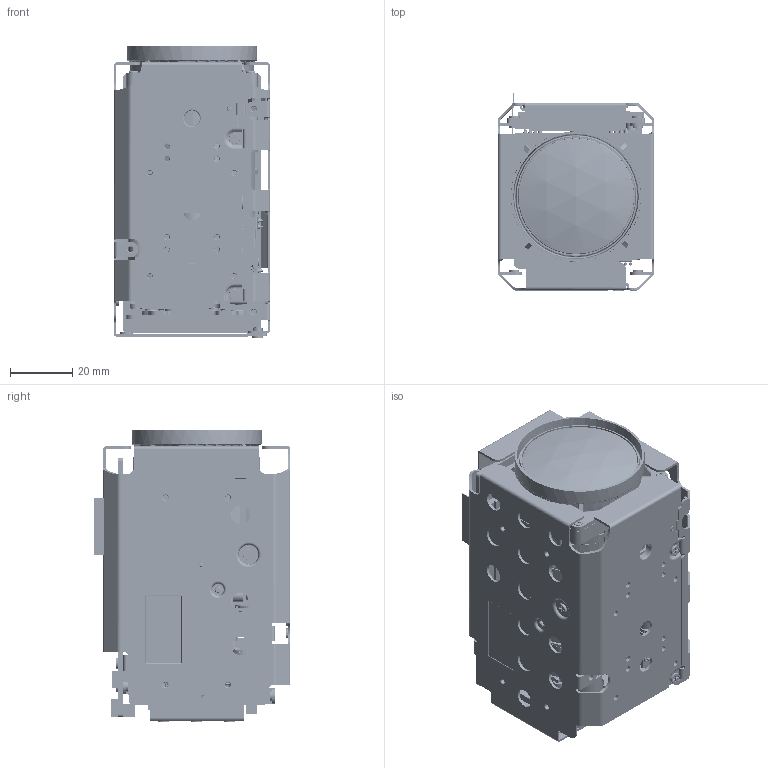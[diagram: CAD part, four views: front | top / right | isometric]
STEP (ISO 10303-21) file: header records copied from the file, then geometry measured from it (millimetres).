
FILE_DESCRIPTION((''),'2;1');
FILE_NAME('000_30LGHD_ASSY_ASM','2024-12-26T',('USER'),(''),'PRO/ENGINEER BY PARAMETRIC TECHNOLOGY CORPORATION, 2012300','PRO/ENGINEER BY PARAMETRIC TECHNOLOGY CORPORATION, 2012300','');
FILE_SCHEMA(('AUTOMOTIVE_DESIGN_CC2 { 1 2 10303 214 -1 1 5 2 }'));
Length unit declared in the file: millimetre
Products named in the file (16): 654423010_LENS_ZOOM_30LGHD; 355037034_PLATE_BKT_CMOS_PCB; 364037012_SHIELD_SENSOR; 30LGHD_IMX900; NEW_PCB_SENSOR_30LGHD_ASM; 837102082_TS_CH_M2X8; 365837028_SPACER_SUPPORT_R; NEW_PCB_MAIN; NEW_PCB_MAIN_30LGHD_ASM; 837002042A_TS_CH_M2X4; 561591084_PAD_TM_12X12X4T; 323037065SA_CHASSIS_BOTTOM; 817002032A_MS_CH_M2X3; 561591115_PAD_TM_24X36X4T; 323037062SA_CHASSIS_TOP; 000_30LGHD_ASSY_ASM
Assembly tree (29 placements, depth 3):
  000_30LGHD_ASSY_ASM
    654423010_LENS_ZOOM_30LGHD
    355037034_PLATE_BKT_CMOS_PCB
    364037012_SHIELD_SENSOR
    NEW_PCB_SENSOR_30LGHD_ASM
      30LGHD_IMX900
    837102082_TS_CH_M2X8  x3
    365837028_SPACER_SUPPORT_R
    NEW_PCB_MAIN_30LGHD_ASM
      NEW_PCB_MAIN
    837002042A_TS_CH_M2X4  x4
    561591084_PAD_TM_12X12X4T
    323037065SA_CHASSIS_BOTTOM
    817002032A_MS_CH_M2X3  x10
    561591115_PAD_TM_24X36X4T
    323037062SA_CHASSIS_TOP
Bounding box: 50 x 63 x 93.82 mm (x, y, z)
Volume: 28481.1 mm3; surface area: 95236 mm2
Topology: 26 solids, 151 shells, 5491 faces, 17975 edges, 12741 vertices
Faces by surface type: plane 2711, cylinder 1955, torus 378, cone 308, bspline 125, sphere 14
Entity records: 240495 total; most frequent: CARTESIAN_POINT 53115, ORIENTED_EDGE 30754, DIRECTION 30068, EDGE_CURVE 17124, VERTEX_POINT 12209, AXIS2_PLACEMENT_3D 10308, VECTOR 9452, LINE 9452
